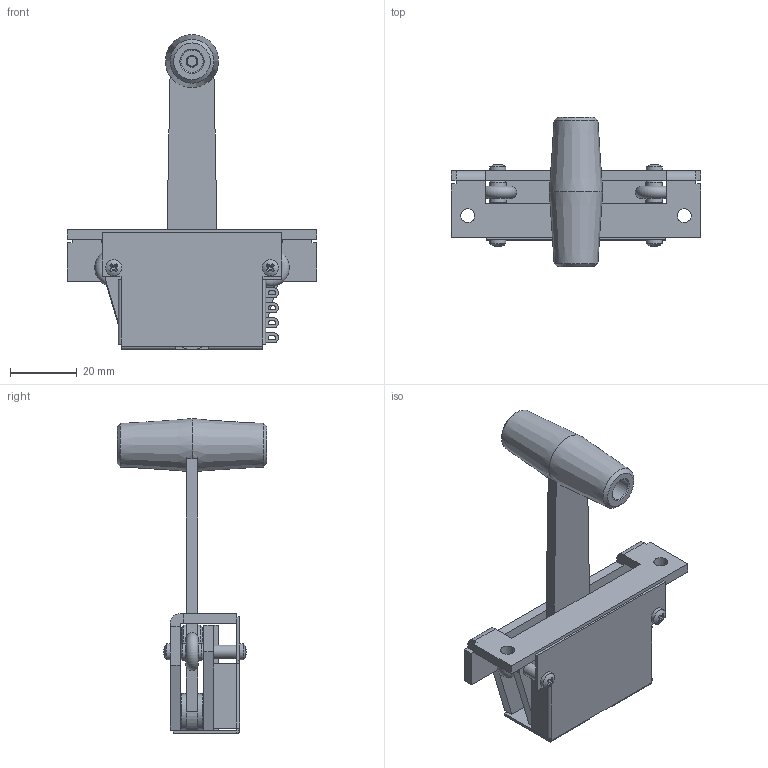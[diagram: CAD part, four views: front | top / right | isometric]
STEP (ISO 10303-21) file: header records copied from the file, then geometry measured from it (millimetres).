
FILE_DESCRIPTION(('FreeCAD Model'),'2;1');
FILE_NAME('Open CASCADE Shape Model','2023-04-14T15:01:51',(''),(''), 'Open CASCADE STEP processor 7.6','FreeCAD','Unknown');
FILE_SCHEMA(('AUTOMOTIVE_DESIGN { 1 0 10303 214 1 1 1 1 }'));
Length unit declared in the file: millimetre
Products named in the file (1): VP-1002A
Bounding box: 75 x 45 x 94.5 mm (x, y, z)
Volume: 27366.6 mm3; surface area: 23702.4 mm2
Topology: 2 solids, 21 shells, 547 faces, 1372 edges, 859 vertices
Faces by surface type: plane 330, cylinder 133, cone 72, torus 6, sphere 5, revolution 1
Full cylindrical faces by diameter (mm): 0.7 x4, 1.5 x4, 1.52 x4, 2 x2, 2.1 x2, 2.3 x8, 2.4 x2, 2.5 x2, 3 x2, 3.5 x3, 3.7 x2, 4 x2, 4.2 x2, 4.9 x4, 5 x9, 5.6 x1, 6.7 x2, 8 x3, 8.04 x1, 8.1 x3, 8.5 x2, 9 x2, 10 x2, 11 x2
Entity records: 36714 total; most frequent: CARTESIAN_POINT 8656, DIRECTION 4989, ORIENTED_EDGE 2734, PCURVE 2734, DEFINITIONAL_REPRESENTATION 2734, LINE 2466, VECTOR 2466, EDGE_CURVE 1367
